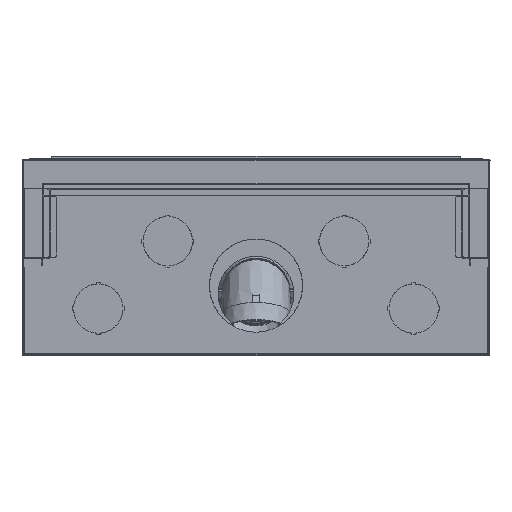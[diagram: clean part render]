
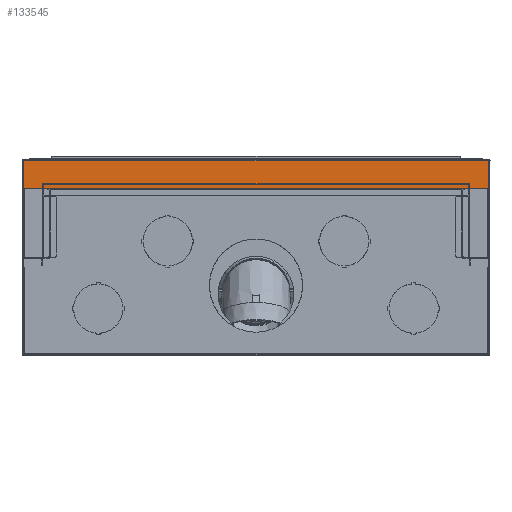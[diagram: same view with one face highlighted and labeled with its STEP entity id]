
A CAD part, top view. The second image highlights one B-rep face of the part: STEP entity #133545.
In plain terms, the highlighted planar face has unit normal (0, 0, 1).
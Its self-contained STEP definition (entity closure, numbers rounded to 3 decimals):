
#5995=FACE_OUTER_BOUND('',#13137,.T.);
#13137=EDGE_LOOP('',(#89880,#89881,#89882,#89883,#89884,#89885));
#20519=CIRCLE('',#141924,6.);
#20520=CIRCLE('',#141925,6.);
#27352=LINE('',#199141,#40521);
#27353=LINE('',#199145,#40522);
#27354=LINE('',#199147,#40523);
#27355=LINE('',#199148,#40524);
#40521=VECTOR('',#159146,10.);
#40522=VECTOR('',#159149,10.);
#40523=VECTOR('',#159150,10.);
#40524=VECTOR('',#159151,10.);
#53630=VERTEX_POINT('',#199137);
#53631=VERTEX_POINT('',#199138);
#53632=VERTEX_POINT('',#199140);
#53633=VERTEX_POINT('',#199142);
#53634=VERTEX_POINT('',#199144);
#53635=VERTEX_POINT('',#199146);
#67244=EDGE_CURVE('',#53630,#53631,#20519,.T.);
#67245=EDGE_CURVE('',#53630,#53632,#27352,.T.);
#67246=EDGE_CURVE('',#53633,#53632,#20520,.T.);
#67247=EDGE_CURVE('',#53634,#53633,#27353,.T.);
#67248=EDGE_CURVE('',#53634,#53635,#27354,.T.);
#67249=EDGE_CURVE('',#53631,#53635,#27355,.T.);
#89880=ORIENTED_EDGE('',*,*,#67244,.F.);
#89881=ORIENTED_EDGE('',*,*,#67245,.T.);
#89882=ORIENTED_EDGE('',*,*,#67246,.F.);
#89883=ORIENTED_EDGE('',*,*,#67247,.F.);
#89884=ORIENTED_EDGE('',*,*,#67248,.T.);
#89885=ORIENTED_EDGE('',*,*,#67249,.F.);
#122532=PLANE('',#141923);
#133545=ADVANCED_FACE('',(#5995),#122532,.T.);
#141923=AXIS2_PLACEMENT_3D('',#199136,#159142,#159143);
#141924=AXIS2_PLACEMENT_3D('',#199139,#159144,#159145);
#141925=AXIS2_PLACEMENT_3D('',#199143,#159147,#159148);
#159142=DIRECTION('center_axis',(0.,0.,
1.));
#159143=DIRECTION('ref_axis',(-1.,0.,0.));
#159144=DIRECTION('center_axis',(0.,0.,
-1.));
#159145=DIRECTION('ref_axis',(-0.707,-0.707,0.));
#159146=DIRECTION('',(1.,0.,0.));
#159147=DIRECTION('center_axis',(0.,0.,
-1.));
#159148=DIRECTION('ref_axis',(0.707,-0.707,0.));
#159149=DIRECTION('',(0.,-1.,0.));
#159150=DIRECTION('',(-1.,0.,0.));
#159151=DIRECTION('',(0.,1.,0.));
#199136=CARTESIAN_POINT('Origin',(0.,336.18,
1370.));
#199137=CARTESIAN_POINT('',(-655.359,-23.5,1370.));
#199138=CARTESIAN_POINT('',(-661.359,-17.5,1370.));
#199139=CARTESIAN_POINT('Origin',(-655.359,-17.5,1370.));
#199140=CARTESIAN_POINT('',(655.359,-23.5,1370.));
#199141=CARTESIAN_POINT('',(-663.,-23.5,1370.));
#199142=CARTESIAN_POINT('',(661.359,-17.5,1370.));
#199143=CARTESIAN_POINT('Origin',(655.359,-17.5,1370.));
#199144=CARTESIAN_POINT('',(661.359,56.75,1370.));
#199145=CARTESIAN_POINT('',(661.359,176.402,1370.));
#199146=CARTESIAN_POINT('',(-661.359,56.75,1370.));
#199147=CARTESIAN_POINT('',(0.,56.75,1370.));
#199148=CARTESIAN_POINT('',(-661.359,176.402,1370.));
